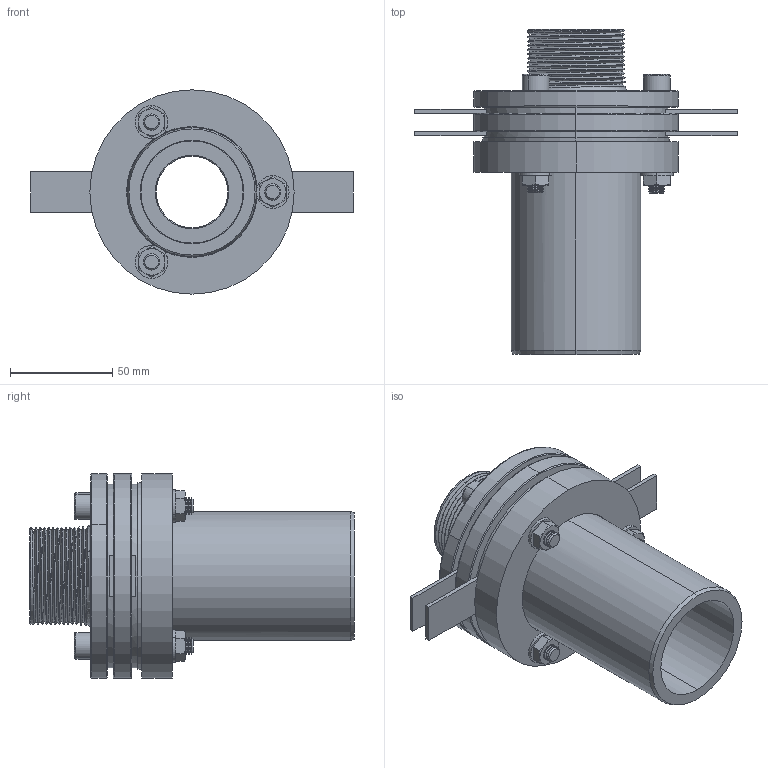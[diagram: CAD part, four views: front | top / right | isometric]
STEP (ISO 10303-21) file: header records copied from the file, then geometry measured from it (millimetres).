
FILE_DESCRIPTION (( 'STEP AP203' ), '1' );
FILE_NAME ('KP_C13-63-54M.step', '2011-08-08T12:02:12', ( '' ), ( '' ), 'SwSTEP 2.0', 'SolidWorks 2011', '' );
FILE_SCHEMA (( 'CONFIG_CONTROL_DESIGN' ));
Length unit declared in the file: millimetre
Products named in the file (1): KP_C13-63-54M
Bounding box: 157.75 x 159 x 100 mm (x, y, z)
Volume: 356472.8 mm3; surface area: 99621.8 mm2
Topology: 1 solids, 32 shells, 799 faces, 1766 edges, 998 vertices
Faces by surface type: cone 340, cylinder 333, plane 103, torus 20, bspline 3
Entity records: 31432 total; most frequent: CARTESIAN_POINT 13402, DIRECTION 4099, ORIENTED_EDGE 3532, EDGE_CURVE 1766, AXIS2_PLACEMENT_3D 1651, VERTEX_POINT 998, CIRCLE 854, EDGE_LOOP 840
